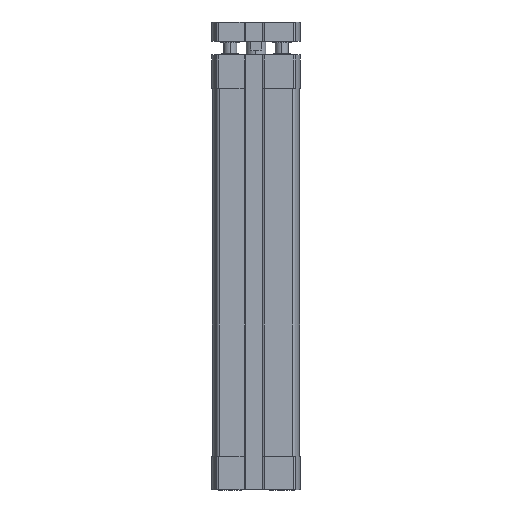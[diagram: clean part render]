
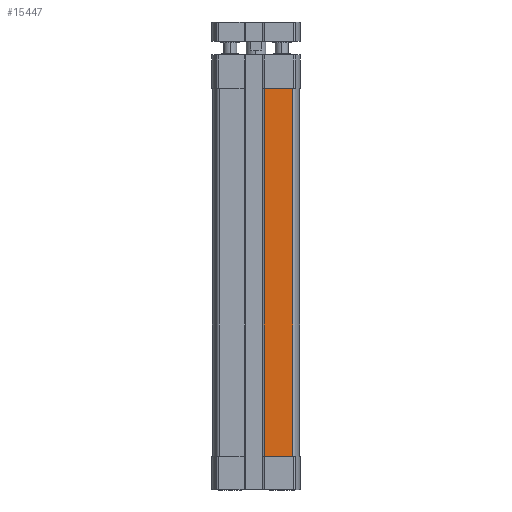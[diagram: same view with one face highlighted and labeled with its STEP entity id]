
A CAD part, front view. The second image highlights one B-rep face of the part: STEP entity #15447.
In plain terms, the highlighted planar face has unit normal (0, -1, 0) as drawn and (-1, 0, 0) by its records, which use the part's own axes.
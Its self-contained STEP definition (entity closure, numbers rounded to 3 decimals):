
#751 = VERTEX_POINT ( 'NONE', #16919 ) ;
#1454 = VECTOR ( 'NONE', #6587, 1000. ) ;
#2319 = VERTEX_POINT ( 'NONE', #5545 ) ;
#2531 = CARTESIAN_POINT ( 'NONE',  ( -13.5, -2.5, -10.5 ) ) ;
#2602 = EDGE_CURVE ( 'NONE', #5216, #2319, #12578, .T. ) ;
#2852 = EDGE_CURVE ( 'NONE', #2319, #7142, #11927, .T. ) ;
#2892 = CARTESIAN_POINT ( 'NONE',  ( -13.5, -2.5, -124.5 ) ) ;
#3306 = AXIS2_PLACEMENT_3D ( 'NONE', #4192, #13413, #5523 ) ;
#4192 = CARTESIAN_POINT ( 'NONE',  ( -13.5, -2.5, -124.5 ) ) ;
#4661 = DIRECTION ( 'NONE',  ( 0., 0., 1. ) ) ;
#5216 = VERTEX_POINT ( 'NONE', #6591 ) ;
#5523 = DIRECTION ( 'NONE',  ( 0., 0., 1. ) ) ;
#5545 = CARTESIAN_POINT ( 'NONE',  ( -13.5, -11.329, -10.5 ) ) ;
#6587 = DIRECTION ( 'NONE',  ( 0., 1., 0. ) ) ;
#6591 = CARTESIAN_POINT ( 'NONE',  ( -13.5, -11.329, -124.5 ) ) ;
#6671 = EDGE_LOOP ( 'NONE', ( #9747, #6683, #14748, #14034 ) ) ;
#6683 = ORIENTED_EDGE ( 'NONE', *, *, #2602, .T. ) ;
#6848 = EDGE_CURVE ( 'NONE', #7142, #751, #14286, .T. ) ;
#7032 = EDGE_CURVE ( 'NONE', #751, #5216, #12208, .T. ) ;
#7142 = VERTEX_POINT ( 'NONE', #2531 ) ;
#8307 = VECTOR ( 'NONE', #10181, 1000. ) ;
#8578 = CARTESIAN_POINT ( 'NONE',  ( -13.5, -11.329, -124.5 ) ) ;
#9747 = ORIENTED_EDGE ( 'NONE', *, *, #7032, .T. ) ;
#10181 = DIRECTION ( 'NONE',  ( 0., -1., 0. ) ) ;
#10767 = VECTOR ( 'NONE', #12099, 1000. ) ;
#11927 = LINE ( 'NONE', #14496, #1454 ) ;
#12067 = PLANE ( 'NONE',  #3306 ) ;
#12099 = DIRECTION ( 'NONE',  ( 0., 0., -1. ) ) ;
#12208 = LINE ( 'NONE', #16787, #8307 ) ;
#12578 = LINE ( 'NONE', #8578, #15269 ) ;
#13413 = DIRECTION ( 'NONE',  ( -1., 0., 0. ) ) ;
#14034 = ORIENTED_EDGE ( 'NONE', *, *, #6848, .T. ) ;
#14286 = LINE ( 'NONE', #2892, #10767 ) ;
#14496 = CARTESIAN_POINT ( 'NONE',  ( -13.5, 0., -10.5 ) ) ;
#14748 = ORIENTED_EDGE ( 'NONE', *, *, #2852, .T. ) ;
#15269 = VECTOR ( 'NONE', #4661, 1000. ) ;
#15447 = ADVANCED_FACE ( 'NONE', ( #16873 ), #12067, .T. ) ;
#16787 = CARTESIAN_POINT ( 'NONE',  ( -13.5, -2.5, -124.5 ) ) ;
#16873 = FACE_OUTER_BOUND ( 'NONE', #6671, .T. ) ;
#16919 = CARTESIAN_POINT ( 'NONE',  ( -13.5, -2.5, -124.5 ) ) ;
